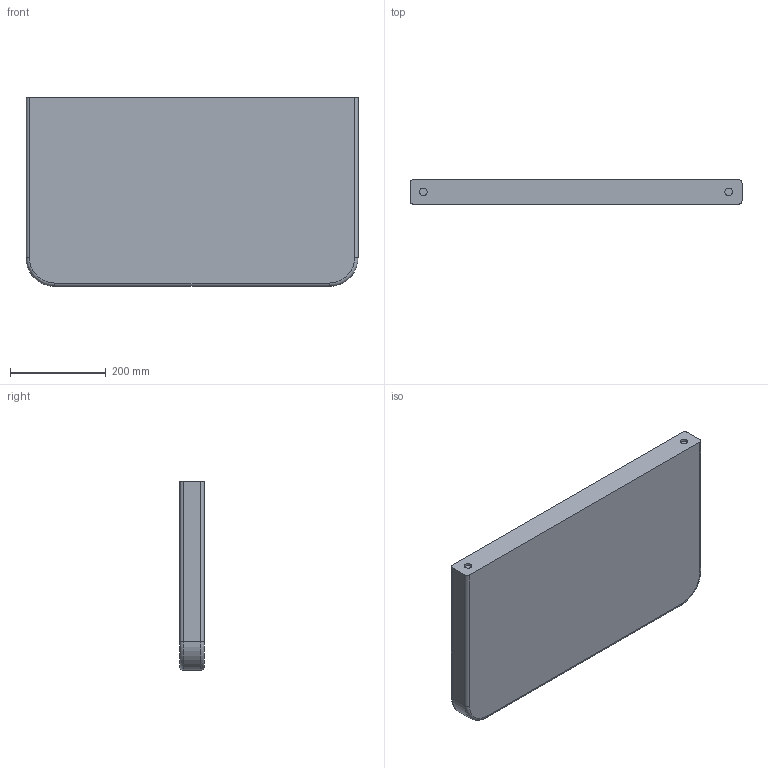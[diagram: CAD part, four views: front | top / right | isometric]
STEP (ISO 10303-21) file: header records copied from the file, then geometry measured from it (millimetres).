
FILE_DESCRIPTION (( 'STEP AP203' ), '1' );
FILE_NAME ('TP690-00CB00E-0000.STEP', '2023-12-04T08:10:06', ( '' ), ( '' ), 'SwSTEP 2.0', 'SolidWorks 2023', '' );
FILE_SCHEMA (( 'CONFIG_CONTROL_DESIGN' ));
Length unit declared in the file: millimetre
Products named in the file (1): TP690-00CB00E-0000
Bounding box: 695 x 51 x 395 mm (x, y, z)
Volume: 13889918.1 mm3; surface area: 646338.1 mm2
Topology: 1 solids, 1 shells, 24 faces, 52 edges, 32 vertices
Faces by surface type: cylinder 12, plane 8, torus 4
Entity records: 737 total; most frequent: DIRECTION 130, CARTESIAN_POINT 109, ORIENTED_EDGE 104, AXIS2_PLACEMENT_3D 53, EDGE_CURVE 52, VERTEX_POINT 32, CIRCLE 28, EDGE_LOOP 26
